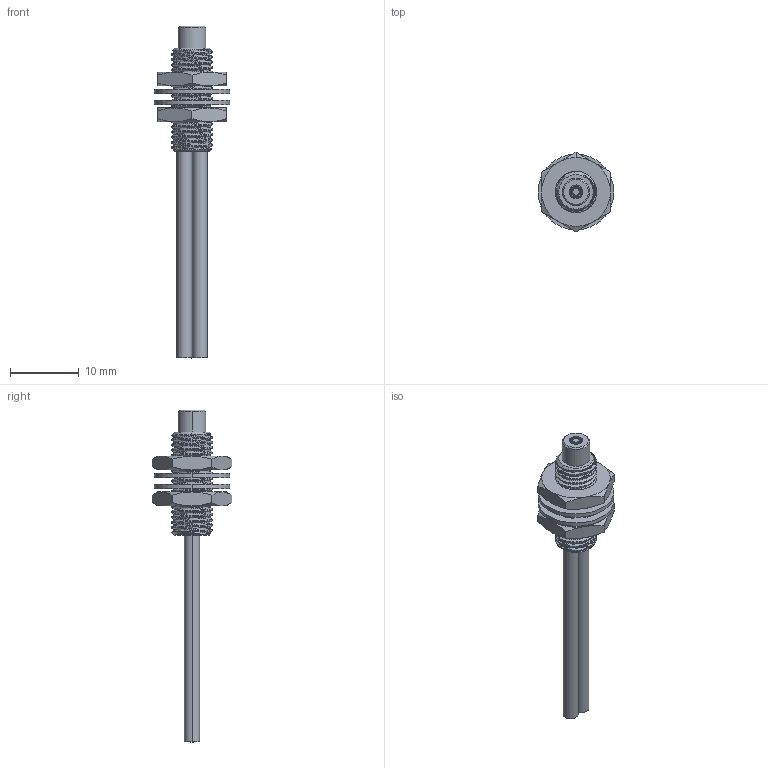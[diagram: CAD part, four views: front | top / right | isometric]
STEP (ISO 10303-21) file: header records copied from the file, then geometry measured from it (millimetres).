
FILE_DESCRIPTION (( 'STEP AP214' ), '1' );
FILE_NAME ('FD-620-F2.STEP', '2019-06-18T02:32:54', ( '' ), ( '' ), 'SwSTEP 2.0', 'SolidWorks 2018', '' );
FILE_SCHEMA (( 'AUTOMOTIVE_DESIGN' ));
Length unit declared in the file: millimetre
Products named in the file (1): FD-620-F2
Bounding box: 11 x 11.55 x 48.2 mm (x, y, z)
Volume: 938 mm3; surface area: 1657.9 mm2
Topology: 5 solids, 5 shells, 249 faces, 638 edges, 426 vertices
Faces by surface type: plane 97, cylinder 95, cone 48, bspline 9
Entity records: 13544 total; most frequent: CARTESIAN_POINT 6829, ORIENTED_EDGE 1276, DIRECTION 1150, EDGE_CURVE 638, AXIS2_PLACEMENT_3D 459, VERTEX_POINT 426, EDGE_LOOP 284, ADVANCED_FACE 249
